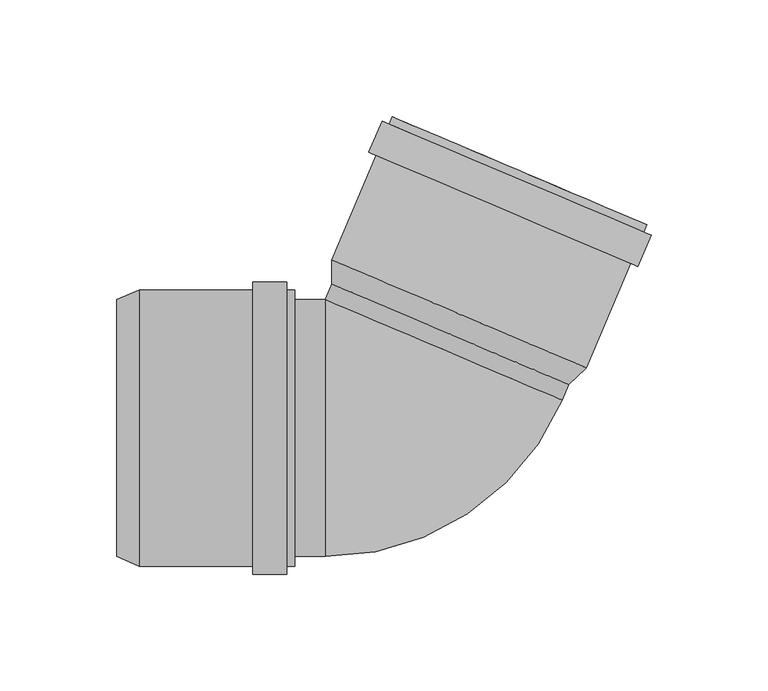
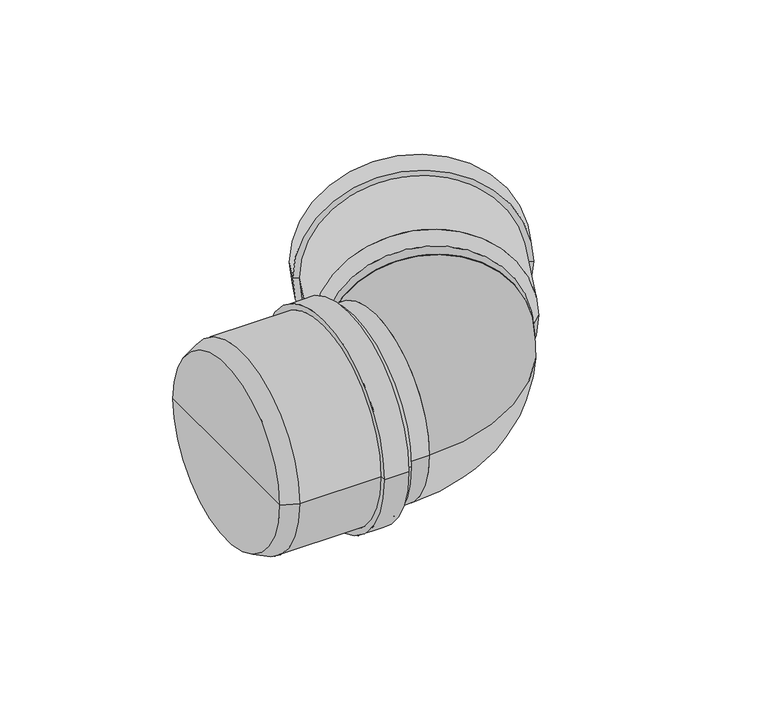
"""IFC4 building model written with IfcOpenShell, lengths in millimetres: pipe fitting geometry, pf_HTB : pf_HTB."""

from ifc_helpers import new_model, si_unit, point, frame, origin, origin_2d, place, context, project, spatial, polyline, circle_curve, ellipse_curve, trimmed, segment, composite_curve, outline, extrude, source, transform, mapped, element, save
from ifc_brep_helpers import plane_surface, cylinder_surface, revolved_surface, advanced_brep


def pipe_fitting_eeb25b69(model_context):
    return source(origin(), model_context, "Body", "SolidModel", [
        advanced_brep(
        [(67.6636441, 18.6437995, 0.0), (-33.5918897, 61.6242237, 0.0), (-33.6540139, 71.9710174, 0.0), (75.1496598, 25.786598, 0.0), (17.0358772, 40.1340116, 0.0), (101.1332798, 87.0001708, 0.0), (-7.6703939, 133.1845902, 0.0), (-3.896324, 131.5825925, 0.0), (97.3592099, 88.6021684, 0.0), (99.804794, 83.8704543, 0.0), (-8.9988797, 130.0548737, 0.0), (102.9345105, 82.5419684, 0.0), (-12.1285962, 131.3833595, 0.0), (97.2689091, 69.1946481, 0.0), (-17.7941976, 118.0360391, 0.0), (94.1391926, 70.5231339, 0.0), (-14.6644811, 116.7075533, 0.0), (71.3755899, 27.3885957, 0.0), (-29.879944, 70.3690198, 0.0), (20.7478229, 48.8788077, 0.0)],
        [
            (0, 1, circle_curve(frame((17.0358772, 40.1340116, 0.0), z_axis=(0.3907311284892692, 0.9205048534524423, 0.0), x_axis=(-0.9205048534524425, 0.39073112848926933, 0.0)), 55.0)),
            (1, 2),
            (2, 3, circle_curve(frame((20.7478229, 48.8788077, 0.0), z_axis=(-0.3907311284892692, -0.9205048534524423, 0.0), x_axis=(-0.9205048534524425, 0.39073112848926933, 0.0)), 59.1)),
            (3, 0),
            (1, 0, circle_curve(frame((17.0358772, 40.1340116, 0.0), z_axis=(0.3907311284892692, 0.9205048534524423, 0.0), x_axis=(-0.9205048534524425, 0.39073112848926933, 0.0)), 55.0)),
            (3, 2, circle_curve(frame((20.7478229, 48.8788077, 0.0), z_axis=(-0.3907311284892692, -0.9205048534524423, 0.0), x_axis=(-0.9205048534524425, 0.39073112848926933, 0.0)), 59.1)),
            (4, 1),
            (0, 4),
            (5, 6, circle_curve(frame((46.731443, 110.0923805, 0.0), z_axis=(0.3907311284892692, 0.9205048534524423, 0.0), x_axis=(-0.9205048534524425, 0.39073112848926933, 0.0)), 59.1)),
            (6, 7),
            (7, 8, circle_curve(frame((46.731443, 110.0923805, 0.0), z_axis=(-0.3907311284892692, -0.9205048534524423, 0.0), x_axis=(-0.9205048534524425, 0.39073112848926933, 0.0)), 55.0)),
            (8, 5),
            (6, 5, circle_curve(frame((46.731443, 110.0923805, 0.0), z_axis=(0.3907311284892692, 0.9205048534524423, 0.0), x_axis=(-0.9205048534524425, 0.39073112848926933, 0.0)), 59.1)),
            (8, 7, circle_curve(frame((46.731443, 110.0923805, 0.0), z_axis=(-0.3907311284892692, -0.9205048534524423, 0.0), x_axis=(-0.9205048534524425, 0.39073112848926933, 0.0)), 55.0)),
            (9, 10, circle_curve(frame((45.4029571, 106.962664, 0.0), z_axis=(0.3907311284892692, 0.9205048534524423, 0.0), x_axis=(-0.9205048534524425, 0.39073112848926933, 0.0)), 59.1)),
            (10, 6),
            (5, 9),
            (10, 9, circle_curve(frame((45.4029571, 106.962664, 0.0), z_axis=(0.3907311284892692, 0.9205048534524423, 0.0), x_axis=(-0.9205048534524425, 0.39073112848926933, 0.0)), 59.1)),
            (11, 12, circle_curve(frame((45.4029571, 106.962664, 0.0), z_axis=(0.3907311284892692, 0.9205048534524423, 0.0), x_axis=(-0.9205048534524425, 0.39073112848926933, 0.0)), 62.5)),
            (12, 10),
            (9, 11),
            (12, 11, circle_curve(frame((45.4029571, 106.962664, 0.0), z_axis=(0.3907311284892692, 0.9205048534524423, 0.0), x_axis=(-0.9205048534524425, 0.39073112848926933, 0.0)), 62.5)),
            (13, 14, circle_curve(frame((39.7373558, 93.6153436, 0.0), z_axis=(0.3907311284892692, 0.9205048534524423, 0.0), x_axis=(-0.9205048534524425, 0.39073112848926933, 0.0)), 62.5)),
            (14, 12),
            (11, 13),
            (14, 13, circle_curve(frame((39.7373558, 93.6153436, 0.0), z_axis=(0.3907311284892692, 0.9205048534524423, 0.0), x_axis=(-0.9205048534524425, 0.39073112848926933, 0.0)), 62.5)),
            (15, 16, circle_curve(frame((39.7373558, 93.6153436, 0.0), z_axis=(0.3907311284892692, 0.9205048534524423, 0.0), x_axis=(-0.9205048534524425, 0.39073112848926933, 0.0)), 59.1)),
            (16, 14),
            (13, 15),
            (16, 15, circle_curve(frame((39.7373558, 93.6153436, 0.0), z_axis=(0.3907311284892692, 0.9205048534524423, 0.0), x_axis=(-0.9205048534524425, 0.39073112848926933, 0.0)), 59.1)),
            (2, 16),
            (15, 3),
            (17, 18, circle_curve(frame((20.7478229, 48.8788077, 0.0), z_axis=(0.3907311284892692, 0.9205048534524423, 0.0), x_axis=(-0.9205048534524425, 0.39073112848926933, 0.0)), 55.0)),
            (18, 19),
            (19, 17),
            (18, 17, circle_curve(frame((20.7478229, 48.8788077, 0.0), z_axis=(0.3907311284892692, 0.9205048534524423, 0.0), x_axis=(-0.9205048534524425, 0.39073112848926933, 0.0)), 55.0)),
            (7, 18),
            (17, 8),
        ],
        [
            revolved_surface(polyline([(-33.6540139, 71.9710174, 0.0), (-33.5918897, 61.6242237, 0.0)]), (17.0358772, 40.1340116, 0.0), (-0.3907311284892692, -0.9205048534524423, 0.0)),
            plane_surface(frame((17.0358772, 40.1340116, 0.0), z_axis=(-0.3907311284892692, -0.9205048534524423, 0.0), x_axis=(-0.9205048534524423, 0.3907311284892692, 0.0))),
            plane_surface(frame((46.731443, 110.0923805, 0.0), z_axis=(0.3907311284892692, 0.9205048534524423, 0.0), x_axis=(-0.9205048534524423, 0.3907311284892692, 0.0))),
            cylinder_surface(frame((17.0358772, 40.1340116, 0.0), z_axis=(-0.3907311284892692, -0.9205048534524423, 0.0), x_axis=(-0.9205048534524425, 0.39073112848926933, 0.0)), 59.1),
            plane_surface(frame((45.4029571, 106.962664, 0.0), z_axis=(0.3907311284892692, 0.9205048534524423, 0.0), x_axis=(-0.9205048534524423, 0.3907311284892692, 0.0))),
            cylinder_surface(frame((17.0358772, 40.1340116, 0.0), z_axis=(-0.3907311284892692, -0.9205048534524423, 0.0), x_axis=(-0.9205048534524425, 0.39073112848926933, 0.0)), 62.5),
            plane_surface(frame((39.7373558, 93.6153436, 0.0), z_axis=(-0.3907311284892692, -0.9205048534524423, 0.0), x_axis=(-0.9205048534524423, 0.3907311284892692, 0.0))),
            plane_surface(frame((20.7478229, 48.8788077, 0.0), z_axis=(0.3907311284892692, 0.9205048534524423, 0.0), x_axis=(-0.9205048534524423, 0.3907311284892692, 0.0))),
            revolved_surface(polyline([(-29.879944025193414, 70.3690197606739, 0.0), (-3.896323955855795, 131.58259257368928, 0.0)]), (17.0358772, 40.1340116, 0.0), (-0.3907311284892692, -0.9205048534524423, 0.0)),
        ],
        [
            (0, [[1, 2, 3, 4]]),
            (0, [[5, -4, 6, -2]]),
            (1, [[7, -1, 8]]),
            (1, [[-8, -5, -7]]),
            (2, [[9, 10, 11, 12]]),
            (2, [[13, -12, 14, -10]]),
            (3, [[15, 16, -9, 17]]),
            (3, [[18, -17, -13, -16]]),
            (4, [[19, 20, -15, 21]]),
            (4, [[22, -21, -18, -20]]),
            (5, [[23, 24, -19, 25]]),
            (5, [[26, -25, -22, -24]]),
            (6, [[27, 28, -23, 29]]),
            (6, [[30, -29, -26, -28]]),
            (3, [[-3, 31, -27, 32]]),
            (3, [[-6, -32, -30, -31]]),
            (7, [[33, 34, 35]]),
            (7, [[36, -35, -34]]),
            (8, [[-11, 37, -33, 38]]),
            (8, [[-14, -38, -36, -37]]),
        ],
    ),
        advanced_brep(
        [(-125.5, -55.0, 0.0), (-125.5, 55.0, 0.0), (-116.0, 59.1, 0.0), (-116.0, -59.1, 0.0), (-125.5, 0.0, 0.0), (-49.5, -59.1, 0.0), (-49.5, 59.1, 0.0), (-49.5, 55.0, 0.0), (-49.5, -55.0, 0.0), (-52.9, -59.1, 0.0), (-52.9, 59.1, 0.0), (-52.9, -62.5, 0.0), (-52.9, 62.5, 0.0), (-67.4, -62.5, 0.0), (-67.4, 62.5, 0.0), (-67.4, -59.1, 0.0), (-67.4, 59.1, 0.0), (-116.0, -55.0, 0.0), (-116.0, 55.0, 0.0), (-116.0, 0.0, 0.0)],
        [
            (0, 1, circle_curve(frame((-125.5, 0.0, 0.0), z_axis=(1.0, 0.0, 0.0), x_axis=(0.0, 1.0, 0.0)), 55.0)),
            (1, 2),
            (2, 3, circle_curve(frame((-116.0, 0.0, 0.0), z_axis=(-1.0, 0.0, 0.0), x_axis=(0.0, 1.0, 0.0)), 59.1)),
            (3, 0),
            (1, 0, circle_curve(frame((-125.5, 0.0, 0.0), z_axis=(1.0, 0.0, 0.0), x_axis=(0.0, 1.0, 0.0)), 55.0)),
            (3, 2, circle_curve(frame((-116.0, 0.0, 0.0), z_axis=(-1.0, 0.0, 0.0), x_axis=(0.0, 1.0, 0.0)), 59.1)),
            (4, 1),
            (0, 4),
            (5, 6, circle_curve(frame((-49.5, 0.0, 0.0), z_axis=(1.0, 0.0, 0.0), x_axis=(0.0, 1.0, 0.0)), 59.1)),
            (6, 7),
            (7, 8, circle_curve(frame((-49.5, 0.0, 0.0), z_axis=(-1.0, 0.0, 0.0), x_axis=(0.0, 1.0, 0.0)), 55.0)),
            (8, 5),
            (6, 5, circle_curve(frame((-49.5, 0.0, 0.0), z_axis=(1.0, 0.0, 0.0), x_axis=(0.0, 1.0, 0.0)), 59.1)),
            (8, 7, circle_curve(frame((-49.5, 0.0, 0.0), z_axis=(-1.0, 0.0, 0.0), x_axis=(0.0, 1.0, 0.0)), 55.0)),
            (9, 10, circle_curve(frame((-52.9, 0.0, 0.0), z_axis=(1.0, 0.0, 0.0), x_axis=(0.0, 1.0, 0.0)), 59.1)),
            (10, 6),
            (5, 9),
            (10, 9, circle_curve(frame((-52.9, 0.0, 0.0), z_axis=(1.0, 0.0, 0.0), x_axis=(0.0, 1.0, 0.0)), 59.1)),
            (11, 12, circle_curve(frame((-52.9, 0.0, 0.0), z_axis=(1.0, 0.0, 0.0), x_axis=(0.0, 1.0, 0.0)), 62.5)),
            (12, 10),
            (9, 11),
            (12, 11, circle_curve(frame((-52.9, 0.0, 0.0), z_axis=(1.0, 0.0, 0.0), x_axis=(0.0, 1.0, 0.0)), 62.5)),
            (13, 14, circle_curve(frame((-67.4, 0.0, 0.0), z_axis=(1.0, 0.0, 0.0), x_axis=(0.0, 1.0, 0.0)), 62.5)),
            (14, 12),
            (11, 13),
            (14, 13, circle_curve(frame((-67.4, 0.0, 0.0), z_axis=(1.0, 0.0, 0.0), x_axis=(0.0, 1.0, 0.0)), 62.5)),
            (15, 16, circle_curve(frame((-67.4, 0.0, 0.0), z_axis=(1.0, 0.0, 0.0), x_axis=(0.0, 1.0, 0.0)), 59.1)),
            (16, 14),
            (13, 15),
            (16, 15, circle_curve(frame((-67.4, 0.0, 0.0), z_axis=(1.0, 0.0, 0.0), x_axis=(0.0, 1.0, 0.0)), 59.1)),
            (2, 16),
            (15, 3),
            (17, 18, circle_curve(frame((-116.0, 0.0, 0.0), z_axis=(1.0, 0.0, 0.0), x_axis=(0.0, 1.0, 0.0)), 55.0)),
            (18, 19),
            (19, 17),
            (18, 17, circle_curve(frame((-116.0, 0.0, 0.0), z_axis=(1.0, 0.0, 0.0), x_axis=(0.0, 1.0, 0.0)), 55.0)),
            (7, 18),
            (17, 8),
        ],
        [
            revolved_surface(polyline([(-116.0, 59.1, 0.0), (-125.5, 55.0, 0.0)]), (-125.5, 0.0, 0.0), (-1.0, 0.0, 0.0)),
            plane_surface(frame((-125.5, 0.0, 0.0), z_axis=(-1.0, 0.0, 0.0), x_axis=(0.0, 1.0, 0.0))),
            plane_surface(frame((-49.5, 0.0, 0.0), z_axis=(1.0, 0.0, 0.0), x_axis=(0.0, 1.0, 0.0))),
            cylinder_surface(frame((-125.5, 0.0, 0.0), z_axis=(-1.0, 0.0, 0.0), x_axis=(0.0, 1.0, 0.0)), 59.1),
            plane_surface(frame((-52.9, 0.0, 0.0), z_axis=(1.0, 0.0, 0.0), x_axis=(0.0, 1.0, 0.0))),
            cylinder_surface(frame((-125.5, 0.0, 0.0), z_axis=(-1.0, 0.0, 0.0), x_axis=(0.0, 1.0, 0.0)), 62.5),
            plane_surface(frame((-67.4, 0.0, 0.0), z_axis=(-1.0, 0.0, 0.0), x_axis=(0.0, 1.0, 0.0))),
            plane_surface(frame((-116.0, 0.0, 0.0), z_axis=(1.0, 0.0, 0.0), x_axis=(0.0, 1.0, 0.0))),
            revolved_surface(polyline([(-116.0, 55.0, 0.0), (-49.5, 55.0, 0.0)]), (-125.5, 0.0, 0.0), (-1.0, 0.0, 0.0)),
        ],
        [
            (0, [[1, 2, 3, 4]]),
            (0, [[5, -4, 6, -2]]),
            (1, [[7, -1, 8]]),
            (1, [[-8, -5, -7]]),
            (2, [[9, 10, 11, 12]]),
            (2, [[13, -12, 14, -10]]),
            (3, [[15, 16, -9, 17]]),
            (3, [[18, -17, -13, -16]]),
            (4, [[19, 20, -15, 21]]),
            (4, [[22, -21, -18, -20]]),
            (5, [[23, 24, -19, 25]]),
            (5, [[26, -25, -22, -24]]),
            (6, [[27, 28, -23, 29]]),
            (6, [[30, -29, -26, -28]]),
            (3, [[-3, 31, -27, 32]]),
            (3, [[-6, -32, -30, -31]]),
            (7, [[33, 34, 35]]),
            (7, [[36, -35, -34]]),
            (8, [[-11, 37, -33, 38]]),
            (8, [[-14, -38, -36, -37]]),
        ],
    ),
        extrude(outline(composite_curve([segment(trimmed(circle_curve(origin_2d(), 55.0), [point((0.0, -55.0000001))], [point((0.0, 54.9999999))], False, "CARTESIAN"), True, "CONTINUOUS"), segment(trimmed(circle_curve(origin_2d(), 55.0), [point((0.0, 54.9999999))], [point((0.0, -55.0000001))], False, "CARTESIAN"), True, "CONTINUOUS")], self_intersect=False)), frame((14.2240611, 33.5097879, 0.0), z_axis=(0.3907311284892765, 0.9205048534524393, 0.0), x_axis=(0.0, 0.0, 1.0)), (0.0, 0.0, 1.0), 16.6962941),
        extrude(outline(composite_curve([segment(trimmed(circle_curve(origin_2d(), 55.0), [point((-55.0, 0.0))], [point((55.0, 0.0))], False, "CARTESIAN"), True, "CONTINUOUS"), segment(trimmed(circle_curve(origin_2d(), 55.0), [point((55.0, 0.0))], [point((-55.0, 0.0))], False, "CARTESIAN"), True, "CONTINUOUS")], self_intersect=False)), frame((-116.0, 0.0, 0.0), z_axis=(1.0, 0.0, 0.0), x_axis=(0.0, 1.0, 0.0)), (0.0, 0.0, 1.0), 79.5962941),
        advanced_brep(
        [(-36.4037059, -55.0, 0.0), (-36.4037059, 55.0, 0.0), (64.851828, 12.0195759, 0.0)],
        [
            (0, 1, circle_curve(frame((-36.4037059, 0.0, 0.0), z_axis=(-1.0, 0.0, 0.0), x_axis=(0.0, 1.0, 0.0)), 55.0)),
            (1, 0, circle_curve(frame((-36.4037059, 0.0, 0.0), z_axis=(-1.0, 0.0, 0.0), x_axis=(0.0, 1.0, 0.0)), 55.0)),
            (2, 1, circle_curve(frame((14.2240611, 33.5097879, 0.0), z_axis=(0.39073112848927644, 0.9205048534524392, 0.0), x_axis=(-0.9205048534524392, 0.39073112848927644, 0.0)), 55.0)),
            (1, 2, circle_curve(frame((14.2240611, 33.5097879, 0.0), z_axis=(0.39073112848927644, 0.9205048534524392, 0.0), x_axis=(-0.9205048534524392, 0.39073112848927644, 0.0)), 55.0)),
            (2, 0, circle_curve(frame((-36.4037059, 55.0, 0.0), z_axis=(0.0, 0.0, -1.0), x_axis=(0.0, -1.0, 0.0)), 110.0)),
        ],
        [
            plane_surface(frame((-36.4037059, 55.0, -14.8), z_axis=(-1.0, 0.0, 0.0), x_axis=(0.0, -1.0, 0.0))),
            plane_surface(frame((-36.4037059, 55.0, -14.8), z_axis=(0.39073112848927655, 0.9205048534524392, 0.0), x_axis=(0.9205048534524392, -0.39073112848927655, 0.0))),
            revolved_surface(trimmed(ellipse_curve(frame((-36.4037059, 0.0, 0.0), z_axis=(1.0, 0.0, 0.0), x_axis=(0.0, 1.0, 0.0)), 55.0, 55.0), [point((-36.4037059, -55.0, 0.0))], [point((-36.4037059, 55.0, 0.0))], True, "CARTESIAN"), (-36.4037059, 55.0, -14.8), (0.0, 0.0, -1.0)),
            revolved_surface(trimmed(ellipse_curve(frame((-36.4037059, 0.0, 0.0), z_axis=(1.0, 0.0, 0.0), x_axis=(0.0, 1.0, 0.0)), 55.0, 55.0), [point((-36.4037059, 55.0, 0.0))], [point((-36.4037059, -55.0, 0.0))], True, "CARTESIAN"), (-36.4037059, 55.0, -14.8), (0.0, 0.0, -1.0)),
        ],
        [
            (0, [[1, 2]]),
            (1, [[3, 4]]),
            (2, [[5, -2, -3]]),
            (3, [[-1, -5, -4]]),
        ],
    ),
    ])


if __name__ == "__main__":
    model = new_model("IFC4")
    model_context = context("Model", 3, world=origin())
    ifc_project = project(units=[si_unit("LENGTHUNIT", "METRE", prefix="MILLI")], contexts=[model_context])
    site = spatial("IfcSite", under=ifc_project)
    building = spatial("IfcBuilding", under=site)
    placement = place(None, origin())
    pipe_fitting_shape = pipe_fitting_eeb25b69(model_context)
    element("IfcPipeFitting", 1, ObjectType="pf_HTB : pf_HTB", at=placement, inside=building, context=model_context, shape_type="MappedRepresentation", body=[
        mapped(pipe_fitting_shape, transform((0.0, 0.0, 0.0), x_axis=(1.0, 0.0, 0.0), y_axis=(0.0, 1.0, 0.0), z_axis=(0.0, 0.0, 1.0))),
    ])
    save(model, "model.ifc")
